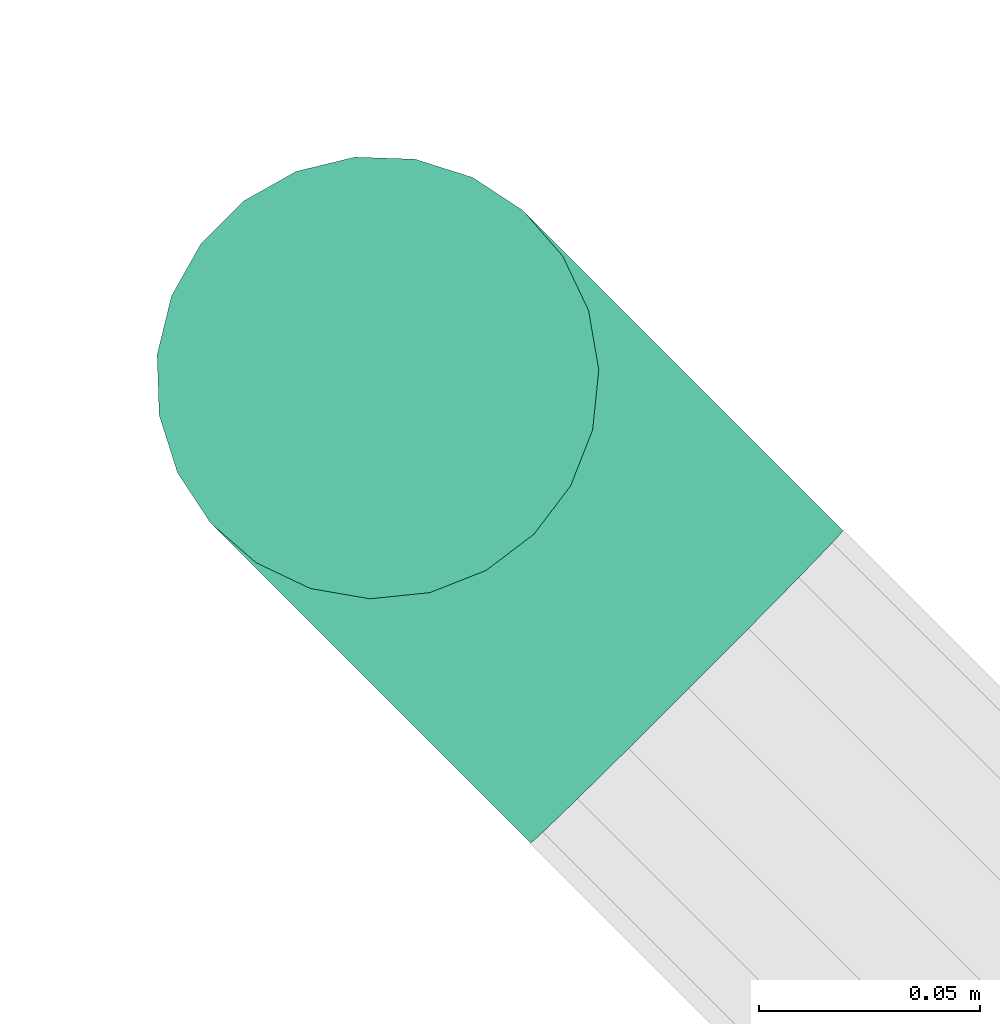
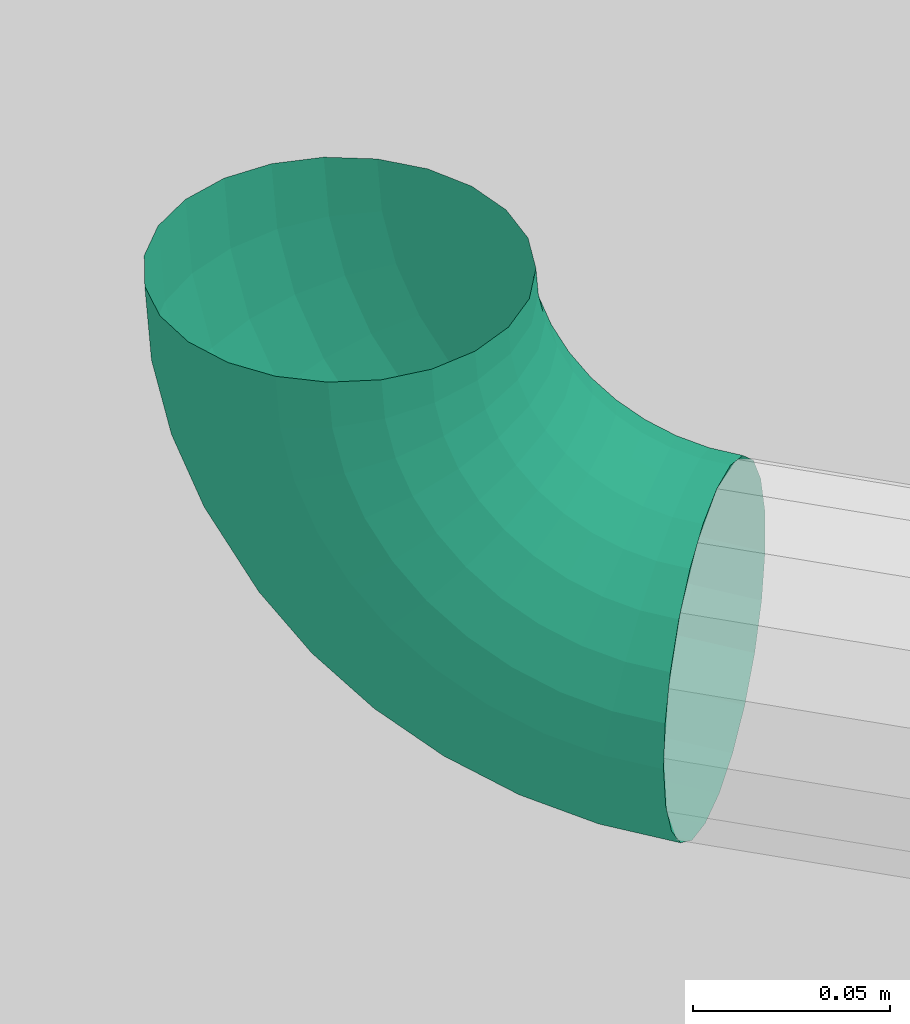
# One storey, part 14 of 22: 1 flow fitting.
"""IFC2X3 building model written with IfcOpenShell, lengths in metres."""

from ifc_helpers import new_model, entity, si_unit, converted_unit, derived_unit, money_unit, direction, frame, origin_with_axes, place, context, subcontext, project, spatial, open_shell, surface_model, material, type_object, element, save


model = new_model("IFC2X3")

# Units and contexts
model_context = context("Model", 3, precision=1e-05, world=origin_with_axes(), true_north=direction((0.0, 1.0)))
body_context = subcontext(model_context, "Body", "Model", "MODEL_VIEW", scale=1.0)
ifc_project = project(units=[si_unit("LENGTHUNIT", "METRE"), si_unit("AREAUNIT", "SQUARE_METRE"), si_unit("VOLUMEUNIT", "CUBIC_METRE"), si_unit("ABSORBEDDOSEUNIT", "GRAY"), si_unit("AMOUNTOFSUBSTANCEUNIT", "MOLE"), si_unit("DOSEEQUIVALENTUNIT", "SIEVERT"), si_unit("ELECTRICCAPACITANCEUNIT", "FARAD"), si_unit("ELECTRICCHARGEUNIT", "COULOMB"), si_unit("ELECTRICCONDUCTANCEUNIT", "SIEMENS"), si_unit("ELECTRICCURRENTUNIT", "AMPERE"), si_unit("ELECTRICRESISTANCEUNIT", "OHM"), si_unit("ELECTRICVOLTAGEUNIT", "VOLT"), si_unit("ENERGYUNIT", "JOULE"), si_unit("FORCEUNIT", "NEWTON"), si_unit("FREQUENCYUNIT", "HERTZ"), si_unit("ILLUMINANCEUNIT", "LUX"), si_unit("INDUCTANCEUNIT", "HENRY"), si_unit("LUMINOUSFLUXUNIT", "LUMEN"), si_unit("LUMINOUSINTENSITYUNIT", "CANDELA"), si_unit("MAGNETICFLUXDENSITYUNIT", "TESLA"), si_unit("MAGNETICFLUXUNIT", "WEBER"), si_unit("MASSUNIT", "GRAM"), converted_unit("PLANEANGLEUNIT", "degree", entity("IfcReal", 0.0174532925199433), si_unit("PLANEANGLEUNIT", "RADIAN"), dimensions=[0, 0, 0, 0, 0, 0, 0]), si_unit("POWERUNIT", "WATT"), si_unit("PRESSUREUNIT", "PASCAL"), si_unit("RADIOACTIVITYUNIT", "BECQUEREL"), si_unit("SOLIDANGLEUNIT", "STERADIAN"), si_unit("THERMODYNAMICTEMPERATUREUNIT", "KELVIN"), si_unit("TIMEUNIT", "SECOND"), derived_unit("ACCELERATIONUNIT", [(si_unit("LENGTHUNIT", "METRE"), 1), (si_unit("TIMEUNIT", "SECOND"), -2)]), derived_unit("ANGULARVELOCITYUNIT", [(converted_unit("PLANEANGLEUNIT", "degree", entity("IfcReal", 0.0174532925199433), si_unit("PLANEANGLEUNIT", "RADIAN"), dimensions=[0, 0, 0, 0, 0, 0, 0]), 1), (si_unit("TIMEUNIT", "SECOND"), -1)]), derived_unit("CURVATUREUNIT", [(converted_unit("PLANEANGLEUNIT", "degree", entity("IfcReal", 0.0174532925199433), si_unit("PLANEANGLEUNIT", "RADIAN"), dimensions=[0, 0, 0, 0, 0, 0, 0]), 1), (si_unit("LENGTHUNIT", "METRE"), -1)]), derived_unit("DYNAMICVISCOSITYUNIT", [(si_unit("PRESSUREUNIT", "PASCAL"), 1), (si_unit("TIMEUNIT", "SECOND"), 1)]), derived_unit("HEATFLUXDENSITYUNIT", [(si_unit("POWERUNIT", "WATT"), 1), (si_unit("LENGTHUNIT", "METRE"), -2)]), derived_unit("HEATINGVALUEUNIT", [(si_unit("ENERGYUNIT", "JOULE"), 1), (si_unit("MASSUNIT", "GRAM"), -1)]), derived_unit("INTEGERCOUNTRATEUNIT", [(si_unit("TIMEUNIT", "SECOND"), -1)]), derived_unit("IONCONCENTRATIONUNIT", [(si_unit("MASSUNIT", "GRAM"), 1), (si_unit("VOLUMEUNIT", "CUBIC_METRE"), -1)]), derived_unit("ISOTHERMALMOISTURECAPACITYUNIT", [(si_unit("VOLUMEUNIT", "CUBIC_METRE"), 1), (si_unit("MASSUNIT", "GRAM"), -1)]), derived_unit("KINEMATICVISCOSITYUNIT", [(si_unit("AREAUNIT", "SQUARE_METRE"), 1), (si_unit("TIMEUNIT", "SECOND"), -1)]), derived_unit("LINEARFORCEUNIT", [(si_unit("FORCEUNIT", "NEWTON"), 1), (si_unit("LENGTHUNIT", "METRE"), -1)]), derived_unit("LINEARMOMENTUNIT", [(si_unit("FORCEUNIT", "NEWTON"), 1), (si_unit("LENGTHUNIT", "METRE"), -1)]), derived_unit("LINEARSTIFFNESSUNIT", [(si_unit("FORCEUNIT", "NEWTON"), 1), (si_unit("LENGTHUNIT", "METRE"), -1)]), derived_unit("LINEARVELOCITYUNIT", [(si_unit("LENGTHUNIT", "METRE"), 1), (si_unit("TIMEUNIT", "SECOND"), -1)]), derived_unit("LUMINOUSINTENSITYDISTRIBUTIONUNIT", [(si_unit("LUMINOUSINTENSITYUNIT", "CANDELA"), 1), (si_unit("LUMINOUSFLUXUNIT", "LUMEN"), -1)]), derived_unit("MASSDENSITYUNIT", [(si_unit("MASSUNIT", "GRAM"), 1), (si_unit("VOLUMEUNIT", "CUBIC_METRE"), -1)]), derived_unit("MASSFLOWRATEUNIT", [(si_unit("MASSUNIT", "GRAM"), 1), (si_unit("TIMEUNIT", "SECOND"), -1)]), derived_unit("MASSPERLENGTHUNIT", [(si_unit("MASSUNIT", "GRAM"), 1), (si_unit("LENGTHUNIT", "METRE"), -1)]), derived_unit("MODULUSOFELASTICITYUNIT", [(si_unit("FORCEUNIT", "NEWTON"), 1), (si_unit("AREAUNIT", "SQUARE_METRE"), -1)]), derived_unit("MODULUSOFLINEARSUBGRADEREACTIONUNIT", [(si_unit("FORCEUNIT", "NEWTON"), 1), (si_unit("LENGTHUNIT", "METRE"), -2)]), derived_unit("MODULUSOFROTATIONALSUBGRADEREACTIONUNIT", [(si_unit("FORCEUNIT", "NEWTON"), 1), (si_unit("LENGTHUNIT", "METRE"), 1)]), derived_unit("MODULUSOFSUBGRADEREACTIONUNIT", [(si_unit("FORCEUNIT", "NEWTON"), 1), (si_unit("VOLUMEUNIT", "CUBIC_METRE"), -1)]), derived_unit("MOISTUREDIFFUSIVITYUNIT", [(si_unit("VOLUMEUNIT", "CUBIC_METRE"), 1), (si_unit("TIMEUNIT", "SECOND"), -1)]), derived_unit("MOLECULARWEIGHTUNIT", [(si_unit("MASSUNIT", "GRAM"), 1), (si_unit("AMOUNTOFSUBSTANCEUNIT", "MOLE"), -1)]), derived_unit("PLANARFORCEUNIT", [(si_unit("FORCEUNIT", "NEWTON"), 1), (si_unit("LENGTHUNIT", "METRE"), -2)]), derived_unit("ROTATIONALFREQUENCYUNIT", [(si_unit("TIMEUNIT", "SECOND"), -1)]), derived_unit("ROTATIONALMASSUNIT", [(si_unit("MASSUNIT", "GRAM"), 1), (si_unit("LENGTHUNIT", "METRE"), 2)]), derived_unit("ROTATIONALSTIFFNESSUNIT", [(si_unit("FORCEUNIT", "NEWTON"), 1), (si_unit("LENGTHUNIT", "METRE"), 1), (converted_unit("PLANEANGLEUNIT", "degree", entity("IfcReal", 0.0174532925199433), si_unit("PLANEANGLEUNIT", "RADIAN"), dimensions=[0, 0, 0, 0, 0, 0, 0]), -1)]), derived_unit("SECTIONAREAINTEGRALUNIT", [(si_unit("LENGTHUNIT", "METRE"), 5)]), derived_unit("SECTIONMODULUSUNIT", [(si_unit("LENGTHUNIT", "METRE"), 3)]), derived_unit("SHEARMODULUSUNIT", [(si_unit("FORCEUNIT", "NEWTON"), 1), (si_unit("AREAUNIT", "SQUARE_METRE"), -1)]), derived_unit("SOUNDPOWERUNIT", [(si_unit("ENERGYUNIT", "JOULE"), 1), (si_unit("TIMEUNIT", "SECOND"), -1)]), derived_unit("SPECIFICHEATCAPACITYUNIT", [(si_unit("FORCEUNIT", "NEWTON"), 1), (si_unit("MASSUNIT", "GRAM"), -1), (si_unit("THERMODYNAMICTEMPERATUREUNIT", "KELVIN"), -1)]), derived_unit("TEMPERATUREGRADIENTUNIT", [(si_unit("THERMODYNAMICTEMPERATUREUNIT", "KELVIN"), 1), (si_unit("LENGTHUNIT", "METRE"), -1)]), derived_unit("THERMALADMITTANCEUNIT", [(si_unit("POWERUNIT", "WATT"), 1), (si_unit("AREAUNIT", "SQUARE_METRE"), -1), (si_unit("THERMODYNAMICTEMPERATUREUNIT", "KELVIN"), -1)]), derived_unit("THERMALCONDUCTANCEUNIT", [(si_unit("POWERUNIT", "WATT"), 1), (si_unit("LENGTHUNIT", "METRE"), -1), (si_unit("THERMODYNAMICTEMPERATUREUNIT", "KELVIN"), -1)]), derived_unit("THERMALEXPANSIONCOEFFICIENTUNIT", [(si_unit("THERMODYNAMICTEMPERATUREUNIT", "KELVIN"), -1)]), derived_unit("THERMALRESISTANCEUNIT", [(si_unit("AREAUNIT", "SQUARE_METRE"), 1), (si_unit("POWERUNIT", "WATT"), -1)]), derived_unit("THERMALTRANSMITTANCEUNIT", [(si_unit("POWERUNIT", "WATT"), 1), (si_unit("AREAUNIT", "SQUARE_METRE"), -1), (si_unit("THERMODYNAMICTEMPERATUREUNIT", "KELVIN"), -1)]), derived_unit("TORQUEUNIT", [(si_unit("FORCEUNIT", "NEWTON"), 1), (si_unit("LENGTHUNIT", "METRE"), 1)]), derived_unit("VAPORPERMEABILITYUNIT", [(si_unit("MASSUNIT", "GRAM"), 1), (si_unit("TIMEUNIT", "SECOND"), -1)]), derived_unit("VOLUMETRICFLOWRATEUNIT", [(si_unit("VOLUMEUNIT", "CUBIC_METRE"), 1), (si_unit("TIMEUNIT", "SECOND"), -1)]), derived_unit("WARPINGCONSTANTUNIT", [(si_unit("LENGTHUNIT", "METRE"), 6)]), derived_unit("WARPINGMOMENTUNIT", [(si_unit("FORCEUNIT", "NEWTON"), 1), (si_unit("LENGTHUNIT", "METRE"), 2)]), money_unit("GBP")], contexts=[model_context])

# Site, building, storey, space
site_placement = place(None, origin_with_axes())
site = spatial("IfcSite", under=ifc_project, at=site_placement, Name="Site", CompositionType="ELEMENT")
building_placement = place(site_placement, origin_with_axes())
building = spatial("IfcBuilding", under=site, at=building_placement, Name="Building01", CompositionType="ELEMENT")
storey_placement = place(building_placement, frame((0.0, 0.0, 2.6), z_axis=(0.0, 0.0, 1.0), x_axis=(1.0, 0.0, 0.0)))
storey = spatial("IfcBuildingStorey", under=building, at=storey_placement, Name="MF", CompositionType="ELEMENT", Elevation=2.6)
space_placement = place(storey_placement, frame((14.421434, 6.076984, 0.0), z_axis=(0.0, 0.0, 1.0), x_axis=(0.0, -1.0, 0.0)))
space = spatial("IfcSpace", under=storey, at=space_placement, Name="storage", CompositionType="ELEMENT", InteriorOrExteriorSpace="NOTDEFINED")

# Flow fitting
ifc_material = material(Name="M_BSUK_ColdWater")
pipe_fitting_type = type_object("IfcPipeFittingType", Name="M-BmpElbow-DefaultElbow", PredefinedType="BEND")
placement = place(building_placement, origin_with_axes())
flow_fitting_placement = place(placement, frame((14.9, 4.866475, 4.778874), z_axis=(-0.70710678, 0.70710678, 0.0), x_axis=(0.0, 0.0, -1.0)))
element("IfcFlowFitting", 1, at=flow_fitting_placement, inside=space, type_object=pipe_fitting_type, material=ifc_material, Name="M-BmpElbow-DefaultElbow", ObjectType="M-BmpElbow-DefaultElbow", context=body_context, shape_type="SurfaceModel", body=[
    surface_model("IfcShellBasedSurfaceModel", [(0.008048, -0.01349, -0.048774), (0.0, -0.01349, -0.048146), (0.0, 0.0, -0.05), (0.00776, 0.0, -0.050606), (0.0159, -0.01349, -0.050644), (0.015332, 0.0, -0.052409), (0.023368, -0.01349, -0.05371), (0.022532, 0.0, -0.055365), (0.030269, -0.01349, -0.057897), (0.029187, 0.0, -0.059403), (0.036437, -0.01349, -0.063105), (0.035134, 0.0, -0.064424), (0.041721, -0.01349, -0.069207), (0.040229, 0.0, -0.070308), (0.045995, -0.01349, -0.076055), (0.04435, 0.0, -0.076912), (0.049154, -0.01349, -0.083484), (0.047396, 0.0, -0.084074), (0.051121, -0.01349, -0.091313), (0.049293, 0.0, -0.091623), (0.05185, -0.01349, -0.099352), (0.049996, 0.0, -0.099375), (0.00889, -0.025979, -0.043415), (0.0, -0.025979, -0.042721), (0.017564, -0.025979, -0.04548), (0.025813, -0.025979, -0.048867), (0.033436, -0.025979, -0.053493), (0.040248, -0.025979, -0.059245), (0.046086, -0.025979, -0.065986), (0.050807, -0.025979, -0.07355), (0.054296, -0.025979, -0.081756), (0.056469, -0.025979, -0.090404), (0.057275, -0.025979, -0.099284), (0.010223, -0.036542, -0.034926), (0.0, -0.036542, -0.034128), (0.020199, -0.036542, -0.037301), (0.029685, -0.036542, -0.041196), (0.038452, -0.036542, -0.046515), (0.046287, -0.036542, -0.053131), (0.053, -0.036542, -0.060883), (0.058429, -0.036542, -0.069582), (0.062442, -0.036542, -0.079019), (0.064941, -0.036542, -0.088964), (0.065867, -0.036542, -0.099177), (0.01195, -0.044394, -0.023936), (0.0, -0.044394, -0.023003), (0.02361, -0.044394, -0.026712), (0.034698, -0.044394, -0.031265), (0.044946, -0.044394, -0.037483), (0.054104, -0.044394, -0.045216), (0.061951, -0.044394, -0.054277), (0.068296, -0.044394, -0.064445), (0.072987, -0.044394, -0.075476), (0.075908, -0.044394, -0.0871), (0.076991, -0.044394, -0.099038), (0.013941, -0.048954, -0.011261), (0.0, -0.048954, -0.010173), (0.027544, -0.048954, -0.0145), (0.04048, -0.048954, -0.019811), (0.052435, -0.048954, -0.027065), (0.063119, -0.048954, -0.036087), (0.072274, -0.048954, -0.046657), (0.079677, -0.048954, -0.058521), (0.085149, -0.048954, -0.071389), (0.088558, -0.048954, -0.084951), (0.08982, -0.048954, -0.098877), (0.01605, -0.049883, 0.002159), (0.0, -0.049883, 0.003412), (0.03171, -0.049883, -0.00157), (0.046602, -0.049883, -0.007684), (0.060365, -0.049883, -0.016035), (0.072665, -0.049883, -0.026421), (0.083204, -0.049883, -0.03859), (0.091727, -0.049883, -0.052247), (0.098026, -0.049883, -0.067062), (0.101951, -0.049883, -0.082675), (0.103404, -0.049883, -0.098707), (0.018119, -0.047113, 0.015329), (0.0, -0.047113, 0.016744), (0.035798, -0.047113, 0.01112), (0.05261, -0.047113, 0.004218), (0.068147, -0.047113, -0.00521), (0.082033, -0.047113, -0.016935), (0.093931, -0.047113, -0.030673), (0.103552, -0.047113, -0.046091), (0.110664, -0.047113, -0.062816), (0.115094, -0.047113, -0.080441), (0.116735, -0.047113, -0.098541), (0.019995, -0.040848, 0.027273), (0.0, -0.040848, 0.028834), (0.039505, -0.040848, 0.022628), (0.058059, -0.040848, 0.01501), (0.075205, -0.040848, 0.004606), (0.090528, -0.040848, -0.008333), (0.103658, -0.040848, -0.023494), (0.114276, -0.040848, -0.040508), (0.122124, -0.040848, -0.058965), (0.127013, -0.040848, -0.078416), (0.128824, -0.040848, -0.09839), (0.021539, -0.031554, 0.037104), (0.0, -0.031554, 0.038786), (0.042557, -0.031554, 0.0321), (0.062543, -0.031554, 0.023894), (0.081014, -0.031554, 0.012686), (0.097521, -0.031554, -0.001252), (0.111665, -0.031554, -0.017584), (0.123103, -0.031554, -0.035913), (0.131557, -0.031554, -0.055795), (0.136824, -0.031554, -0.076749), (0.138775, -0.031554, -0.098265), (0.022638, -0.01992, 0.044093), (0.0, -0.01992, 0.045861), (0.044726, -0.01992, 0.038834), (0.065732, -0.01992, 0.03021), (0.085144, -0.01992, 0.018431), (0.102492, -0.01992, 0.003782), (0.117357, -0.01992, -0.013383), (0.129378, -0.01992, -0.032646), (0.138264, -0.01992, -0.053542), (0.143799, -0.01992, -0.075563), (0.145849, -0.01992, -0.098177), (0.023208, -0.006808, 0.047722), (0.0, -0.006808, 0.049534), (0.045853, -0.006808, 0.042331), (0.067387, -0.006808, 0.03349), (0.087288, -0.006808, 0.021414), (0.105074, -0.006808, 0.006395), (0.120313, -0.006808, -0.011201), (0.132637, -0.006808, -0.03095), (0.141746, -0.006808, -0.052372), (0.147421, -0.006808, -0.074948), (0.149523, -0.006808, -0.098131), (0.023208, 0.006808, 0.047722), (0.0, 0.006808, 0.049534), (0.045853, 0.006808, 0.042331), (0.067387, 0.006808, 0.03349), (0.087288, 0.006808, 0.021414), (0.105074, 0.006808, 0.006395), (0.120313, 0.006808, -0.011201), (0.132637, 0.006808, -0.03095), (0.141746, 0.006808, -0.052372), (0.147421, 0.006808, -0.074948), (0.149523, 0.006808, -0.098131), (0.022638, 0.01992, 0.044093), (0.0, 0.01992, 0.045861), (0.044726, 0.01992, 0.038834), (0.065732, 0.01992, 0.03021), (0.085144, 0.01992, 0.018431), (0.102492, 0.01992, 0.003782), (0.117357, 0.01992, -0.013383), (0.129378, 0.01992, -0.032646), (0.138264, 0.01992, -0.053542), (0.143799, 0.01992, -0.075563), (0.145849, 0.01992, -0.098177), (0.021539, 0.031554, 0.037104), (0.0, 0.031554, 0.038786), (0.042557, 0.031554, 0.0321), (0.062543, 0.031554, 0.023894), (0.081014, 0.031554, 0.012686), (0.097521, 0.031554, -0.001252), (0.111665, 0.031554, -0.017584), (0.123103, 0.031554, -0.035913), (0.131557, 0.031554, -0.055795), (0.136824, 0.031554, -0.076749), (0.138775, 0.031554, -0.098265), (0.019995, 0.040848, 0.027273), (0.0, 0.040848, 0.028834), (0.039505, 0.040848, 0.022628), (0.058059, 0.040848, 0.01501), (0.075205, 0.040848, 0.004606), (0.090528, 0.040848, -0.008333), (0.103658, 0.040848, -0.023494), (0.114276, 0.040848, -0.040508), (0.122124, 0.040848, -0.058965), (0.127013, 0.040848, -0.078416), (0.128824, 0.040848, -0.09839), (0.018119, 0.047113, 0.015329), (0.0, 0.047113, 0.016744), (0.035798, 0.047113, 0.01112), (0.05261, 0.047113, 0.004218), (0.068147, 0.047113, -0.00521), (0.082033, 0.047113, -0.016935), (0.093931, 0.047113, -0.030673), (0.103552, 0.047113, -0.046091), (0.110664, 0.047113, -0.062816), (0.115094, 0.047113, -0.080441), (0.116735, 0.047113, -0.098541), (0.01605, 0.049883, 0.002159), (0.0, 0.049883, 0.003412), (0.03171, 0.049883, -0.00157), (0.046602, 0.049883, -0.007684), (0.060365, 0.049883, -0.016035), (0.072665, 0.049883, -0.026421), (0.083204, 0.049883, -0.03859), (0.091727, 0.049883, -0.052247), (0.098026, 0.049883, -0.067062), (0.101951, 0.049883, -0.082675), (0.103404, 0.049883, -0.098707), (0.013941, 0.048954, -0.011261), (0.0, 0.048954, -0.010173), (0.027544, 0.048954, -0.0145), (0.04048, 0.048954, -0.019811), (0.052435, 0.048954, -0.027065), (0.063119, 0.048954, -0.036087), (0.072274, 0.048954, -0.046657), (0.079677, 0.048954, -0.058521), (0.085149, 0.048954, -0.071389), (0.088558, 0.048954, -0.084951), (0.08982, 0.048954, -0.098877), (0.01195, 0.044394, -0.023936), (0.0, 0.044394, -0.023003), (0.02361, 0.044394, -0.026712), (0.034698, 0.044394, -0.031265), (0.044946, 0.044394, -0.037483), (0.054104, 0.044394, -0.045216), (0.061951, 0.044394, -0.054277), (0.068296, 0.044394, -0.064445), (0.072987, 0.044394, -0.075476), (0.075908, 0.044394, -0.0871), (0.076991, 0.044394, -0.099038), (0.010223, 0.036542, -0.034926), (0.0, 0.036542, -0.034128), (0.020199, 0.036542, -0.037301), (0.029685, 0.036542, -0.041196), (0.038452, 0.036542, -0.046515), (0.046287, 0.036542, -0.053131), (0.053, 0.036542, -0.060883), (0.058429, 0.036542, -0.069582), (0.062442, 0.036542, -0.079019), (0.064941, 0.036542, -0.088964), (0.065867, 0.036542, -0.099177), (0.00889, 0.025979, -0.043415), (0.0, 0.025979, -0.042721), (0.017564, 0.025979, -0.04548), (0.025813, 0.025979, -0.048867), (0.033436, 0.025979, -0.053493), (0.040248, 0.025979, -0.059245), (0.046086, 0.025979, -0.065986), (0.050807, 0.025979, -0.07355), (0.054296, 0.025979, -0.081756), (0.056469, 0.025979, -0.090404), (0.057275, 0.025979, -0.099284), (0.008048, 0.01349, -0.048774), (0.0, 0.01349, -0.048146), (0.0159, 0.01349, -0.050644), (0.023368, 0.01349, -0.05371), (0.030269, 0.01349, -0.057897), (0.036437, 0.01349, -0.063105), (0.041721, 0.01349, -0.069207), (0.045995, 0.01349, -0.076055), (0.049154, 0.01349, -0.083484), (0.051121, 0.01349, -0.091313), (0.05185, 0.01349, -0.099352)], [open_shell([[[0, 1, 2, 3]], [[4, 0, 3, 5]], [[6, 4, 5, 7]], [[8, 6, 7, 9]], [[10, 8, 9, 11]], [[12, 10, 11, 13]], [[14, 12, 13, 15]], [[16, 14, 15, 17]], [[18, 16, 17, 19]], [[20, 18, 19, 21]], [[22, 23, 1, 0]], [[24, 22, 0, 4]], [[25, 24, 4, 6]], [[26, 25, 6, 8]], [[27, 26, 8, 10]], [[28, 27, 10, 12]], [[29, 28, 12, 14]], [[30, 29, 14, 16]], [[31, 30, 16, 18]], [[32, 31, 18, 20]], [[33, 34, 23, 22]], [[35, 33, 22, 24]], [[36, 35, 24, 25]], [[37, 36, 25, 26]], [[38, 37, 26, 27]], [[39, 38, 27, 28]], [[40, 39, 28, 29]], [[41, 40, 29, 30]], [[42, 41, 30, 31]], [[43, 42, 31, 32]], [[44, 45, 34, 33]], [[46, 44, 33, 35]], [[47, 46, 35, 36]], [[48, 47, 36, 37]], [[49, 48, 37, 38]], [[50, 49, 38, 39]], [[51, 50, 39, 40]], [[52, 51, 40, 41]], [[53, 52, 41, 42]], [[54, 53, 42, 43]], [[55, 56, 45, 44]], [[57, 55, 44, 46]], [[58, 57, 46, 47]], [[59, 58, 47, 48]], [[60, 59, 48, 49]], [[61, 60, 49, 50]], [[62, 61, 50, 51]], [[63, 62, 51, 52]], [[64, 63, 52, 53]], [[65, 64, 53, 54]], [[66, 67, 56, 55]], [[68, 66, 55, 57]], [[69, 68, 57, 58]], [[70, 69, 58, 59]], [[71, 70, 59, 60]], [[72, 71, 60, 61]], [[73, 72, 61, 62]], [[74, 73, 62, 63]], [[75, 74, 63, 64]], [[76, 75, 64, 65]], [[77, 78, 67, 66]], [[79, 77, 66, 68]], [[80, 79, 68, 69]], [[81, 80, 69, 70]], [[82, 81, 70, 71]], [[83, 82, 71, 72]], [[84, 83, 72, 73]], [[85, 84, 73, 74]], [[86, 85, 74, 75]], [[87, 86, 75, 76]], [[88, 89, 78, 77]], [[90, 88, 77, 79]], [[91, 90, 79, 80]], [[92, 91, 80, 81]], [[93, 92, 81, 82]], [[94, 93, 82, 83]], [[95, 94, 83, 84]], [[96, 95, 84, 85]], [[97, 96, 85, 86]], [[98, 97, 86, 87]], [[99, 100, 89, 88]], [[101, 99, 88, 90]], [[102, 101, 90, 91]], [[103, 102, 91, 92]], [[104, 103, 92, 93]], [[105, 104, 93, 94]], [[106, 105, 94, 95]], [[107, 106, 95, 96]], [[108, 107, 96, 97]], [[109, 108, 97, 98]], [[110, 111, 100, 99]], [[112, 110, 99, 101]], [[113, 112, 101, 102]], [[114, 113, 102, 103]], [[115, 114, 103, 104]], [[116, 115, 104, 105]], [[117, 116, 105, 106]], [[118, 117, 106, 107]], [[119, 118, 107, 108]], [[120, 119, 108, 109]], [[121, 122, 111, 110]], [[123, 121, 110, 112]], [[124, 123, 112, 113]], [[125, 124, 113, 114]], [[126, 125, 114, 115]], [[127, 126, 115, 116]], [[128, 127, 116, 117]], [[129, 128, 117, 118]], [[130, 129, 118, 119]], [[131, 130, 119, 120]], [[132, 133, 122, 121]], [[134, 132, 121, 123]], [[135, 134, 123, 124]], [[136, 135, 124, 125]], [[137, 136, 125, 126]], [[138, 137, 126, 127]], [[139, 138, 127, 128]], [[140, 139, 128, 129]], [[141, 140, 129, 130]], [[142, 141, 130, 131]], [[143, 144, 133, 132]], [[145, 143, 132, 134]], [[146, 145, 134, 135]], [[147, 146, 135, 136]], [[148, 147, 136, 137]], [[149, 148, 137, 138]], [[150, 149, 138, 139]], [[151, 150, 139, 140]], [[152, 151, 140, 141]], [[153, 152, 141, 142]], [[154, 155, 144, 143]], [[156, 154, 143, 145]], [[157, 156, 145, 146]], [[158, 157, 146, 147]], [[159, 158, 147, 148]], [[160, 159, 148, 149]], [[161, 160, 149, 150]], [[162, 161, 150, 151]], [[163, 162, 151, 152]], [[164, 163, 152, 153]], [[165, 166, 155, 154]], [[167, 165, 154, 156]], [[168, 167, 156, 157]], [[169, 168, 157, 158]], [[170, 169, 158, 159]], [[171, 170, 159, 160]], [[172, 171, 160, 161]], [[173, 172, 161, 162]], [[174, 173, 162, 163]], [[175, 174, 163, 164]], [[176, 177, 166, 165]], [[178, 176, 165, 167]], [[179, 178, 167, 168]], [[180, 179, 168, 169]], [[181, 180, 169, 170]], [[182, 181, 170, 171]], [[183, 182, 171, 172]], [[184, 183, 172, 173]], [[185, 184, 173, 174]], [[186, 185, 174, 175]], [[187, 188, 177, 176]], [[189, 187, 176, 178]], [[190, 189, 178, 179]], [[191, 190, 179, 180]], [[192, 191, 180, 181]], [[193, 192, 181, 182]], [[194, 193, 182, 183]], [[195, 194, 183, 184]], [[196, 195, 184, 185]], [[197, 196, 185, 186]], [[198, 199, 188, 187]], [[200, 198, 187, 189]], [[201, 200, 189, 190]], [[202, 201, 190, 191]], [[203, 202, 191, 192]], [[204, 203, 192, 193]], [[205, 204, 193, 194]], [[206, 205, 194, 195]], [[207, 206, 195, 196]], [[208, 207, 196, 197]], [[209, 210, 199, 198]], [[211, 209, 198, 200]], [[212, 211, 200, 201]], [[213, 212, 201, 202]], [[214, 213, 202, 203]], [[215, 214, 203, 204]], [[216, 215, 204, 205]], [[217, 216, 205, 206]], [[218, 217, 206, 207]], [[219, 218, 207, 208]], [[220, 221, 210, 209]], [[222, 220, 209, 211]], [[223, 222, 211, 212]], [[224, 223, 212, 213]], [[225, 224, 213, 214]], [[226, 225, 214, 215]], [[227, 226, 215, 216]], [[228, 227, 216, 217]], [[229, 228, 217, 218]], [[230, 229, 218, 219]], [[231, 232, 221, 220]], [[233, 231, 220, 222]], [[234, 233, 222, 223]], [[235, 234, 223, 224]], [[236, 235, 224, 225]], [[237, 236, 225, 226]], [[238, 237, 226, 227]], [[239, 238, 227, 228]], [[240, 239, 228, 229]], [[241, 240, 229, 230]], [[242, 243, 232, 231]], [[244, 242, 231, 233]], [[245, 244, 233, 234]], [[246, 245, 234, 235]], [[247, 246, 235, 236]], [[248, 247, 236, 237]], [[249, 248, 237, 238]], [[250, 249, 238, 239]], [[251, 250, 239, 240]], [[252, 251, 240, 241]], [[3, 2, 243, 242]], [[5, 3, 242, 244]], [[7, 5, 244, 245]], [[9, 7, 245, 246]], [[11, 9, 246, 247]], [[13, 11, 247, 248]], [[15, 13, 248, 249]], [[17, 15, 249, 250]], [[19, 17, 250, 251]], [[21, 19, 251, 252]]])]),
])

save(model, "model.ifc")
